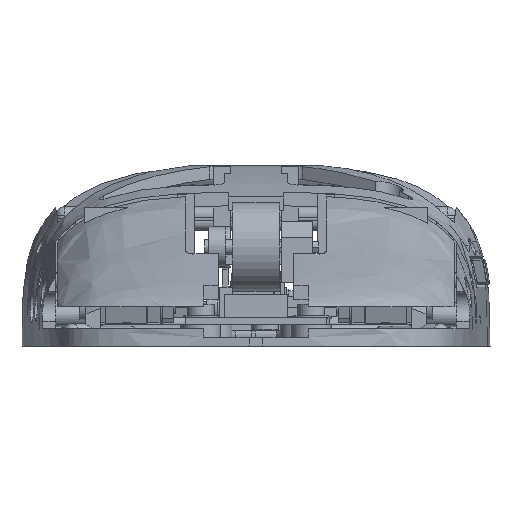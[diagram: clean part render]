
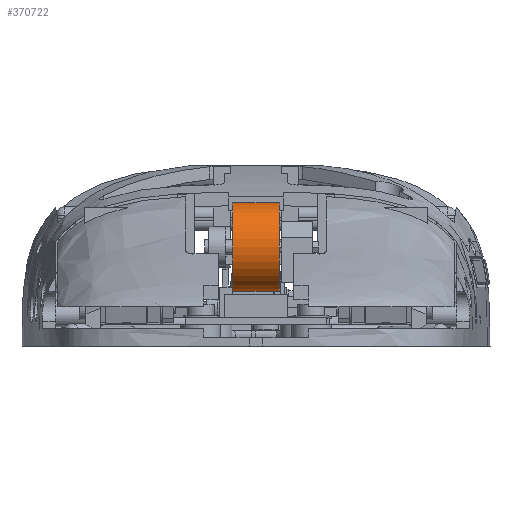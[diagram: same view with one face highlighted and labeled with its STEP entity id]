
A CAD part, front view. The second image highlights one B-rep face of the part: STEP entity #370722.
In plain terms, the highlighted cylindrical face has radius 6.25 mm (diameter 12.5 mm), a full revolution.
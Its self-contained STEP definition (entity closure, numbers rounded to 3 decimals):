
#370722 = ADVANCED_FACE('',(#370723),#370737,.T.);
#370723 = FACE_BOUND('',#370724,.T.);
#370724 = EDGE_LOOP('',(#370725,#370755,#370786,#370787));
#370725 = ORIENTED_EDGE('',*,*,#370726,.F.);
#370726 = EDGE_CURVE('',#370727,#370729,#370731,.T.);
#370727 = VERTEX_POINT('',#370728);
#370728 = CARTESIAN_POINT('',(3.25,28.,25.25));
#370729 = VERTEX_POINT('',#370730);
#370730 = CARTESIAN_POINT('',(-3.25,28.,25.25));
#370731 = SEAM_CURVE('',#370732,(#370736,#370748),.PCURVE_S1.);
#370732 = LINE('',#370733,#370734);
#370733 = CARTESIAN_POINT('',(3.25,28.,25.25));
#370734 = VECTOR('',#370735,1.);
#370735 = DIRECTION('',(-1.,-0.,-0.));
#370736 = PCURVE('',#370737,#370742);
#370737 = CYLINDRICAL_SURFACE('',#370738,6.25);
#370738 = AXIS2_PLACEMENT_3D('',#370739,#370740,#370741);
#370739 = CARTESIAN_POINT('',(3.25,28.,19.));
#370740 = DIRECTION('',(-1.,-0.,-0.));
#370741 = DIRECTION('',(-0.,0.,1.));
#370742 = DEFINITIONAL_REPRESENTATION('',(#370743),#370747);
#370743 = LINE('',#370744,#370745);
#370744 = CARTESIAN_POINT('',(0.,0.));
#370745 = VECTOR('',#370746,1.);
#370746 = DIRECTION('',(-0.,1.));
#370747 = ( GEOMETRIC_REPRESENTATION_CONTEXT(2) 
PARAMETRIC_REPRESENTATION_CONTEXT() REPRESENTATION_CONTEXT('2D SPACE',''
  ) );
#370748 = PCURVE('',#370737,#370749);
#370749 = DEFINITIONAL_REPRESENTATION('',(#370750),#370754);
#370750 = LINE('',#370751,#370752);
#370751 = CARTESIAN_POINT('',(6.283,0.));
#370752 = VECTOR('',#370753,1.);
#370753 = DIRECTION('',(-0.,1.));
#370754 = ( GEOMETRIC_REPRESENTATION_CONTEXT(2) 
PARAMETRIC_REPRESENTATION_CONTEXT() REPRESENTATION_CONTEXT('2D SPACE',''
  ) );
#370755 = ORIENTED_EDGE('',*,*,#370756,.F.);
#370756 = EDGE_CURVE('',#370727,#370727,#370757,.T.);
#370757 = SURFACE_CURVE('',#370758,(#370763,#370770),.PCURVE_S1.);
#370758 = CIRCLE('',#370759,6.25);
#370759 = AXIS2_PLACEMENT_3D('',#370760,#370761,#370762);
#370760 = CARTESIAN_POINT('',(3.25,28.,19.));
#370761 = DIRECTION('',(1.,0.,0.));
#370762 = DIRECTION('',(-0.,0.,1.));
#370763 = PCURVE('',#370737,#370764);
#370764 = DEFINITIONAL_REPRESENTATION('',(#370765),#370769);
#370765 = LINE('',#370766,#370767);
#370766 = CARTESIAN_POINT('',(6.283,0.));
#370767 = VECTOR('',#370768,1.);
#370768 = DIRECTION('',(-1.,0.));
#370769 = ( GEOMETRIC_REPRESENTATION_CONTEXT(2) 
PARAMETRIC_REPRESENTATION_CONTEXT() REPRESENTATION_CONTEXT('2D SPACE',''
  ) );
#370770 = PCURVE('',#370771,#370776);
#370771 = PLANE('',#370772);
#370772 = AXIS2_PLACEMENT_3D('',#370773,#370774,#370775);
#370773 = CARTESIAN_POINT('',(3.25,28.,19.));
#370774 = DIRECTION('',(-1.,-0.,-0.));
#370775 = DIRECTION('',(0.,0.,-1.));
#370776 = DEFINITIONAL_REPRESENTATION('',(#370777),#370785);
#370777 = ( BOUNDED_CURVE() B_SPLINE_CURVE(2,(#370778,#370779,#370780,
    #370781,#370782,#370783,#370784),.UNSPECIFIED.,.T.,.F.) 
B_SPLINE_CURVE_WITH_KNOTS((1,2,2,2,2,1),(-2.094,0.,
    2.094,4.189,6.283,8.378),
.UNSPECIFIED.) CURVE() GEOMETRIC_REPRESENTATION_ITEM() 
RATIONAL_B_SPLINE_CURVE((1.,0.5,1.,0.5,1.,0.5,1.)) REPRESENTATION_ITEM(
  '') );
#370778 = CARTESIAN_POINT('',(-6.25,0.));
#370779 = CARTESIAN_POINT('',(-6.25,10.825));
#370780 = CARTESIAN_POINT('',(3.125,5.413));
#370781 = CARTESIAN_POINT('',(12.5,0.));
#370782 = CARTESIAN_POINT('',(3.125,-5.413));
#370783 = CARTESIAN_POINT('',(-6.25,-10.825));
#370784 = CARTESIAN_POINT('',(-6.25,0.));
#370785 = ( GEOMETRIC_REPRESENTATION_CONTEXT(2) 
PARAMETRIC_REPRESENTATION_CONTEXT() REPRESENTATION_CONTEXT('2D SPACE',''
  ) );
#370786 = ORIENTED_EDGE('',*,*,#370726,.T.);
#370787 = ORIENTED_EDGE('',*,*,#370788,.T.);
#370788 = EDGE_CURVE('',#370729,#370729,#370789,.T.);
#370789 = SURFACE_CURVE('',#370790,(#370795,#370802),.PCURVE_S1.);
#370790 = CIRCLE('',#370791,6.25);
#370791 = AXIS2_PLACEMENT_3D('',#370792,#370793,#370794);
#370792 = CARTESIAN_POINT('',(-3.25,28.,19.));
#370793 = DIRECTION('',(1.,0.,0.));
#370794 = DIRECTION('',(-0.,0.,1.));
#370795 = PCURVE('',#370737,#370796);
#370796 = DEFINITIONAL_REPRESENTATION('',(#370797),#370801);
#370797 = LINE('',#370798,#370799);
#370798 = CARTESIAN_POINT('',(6.283,6.5));
#370799 = VECTOR('',#370800,1.);
#370800 = DIRECTION('',(-1.,0.));
#370801 = ( GEOMETRIC_REPRESENTATION_CONTEXT(2) 
PARAMETRIC_REPRESENTATION_CONTEXT() REPRESENTATION_CONTEXT('2D SPACE',''
  ) );
#370802 = PCURVE('',#370803,#370808);
#370803 = PLANE('',#370804);
#370804 = AXIS2_PLACEMENT_3D('',#370805,#370806,#370807);
#370805 = CARTESIAN_POINT('',(-3.25,28.,19.));
#370806 = DIRECTION('',(-1.,-0.,-0.));
#370807 = DIRECTION('',(0.,0.,-1.));
#370808 = DEFINITIONAL_REPRESENTATION('',(#370809),#370817);
#370809 = ( BOUNDED_CURVE() B_SPLINE_CURVE(2,(#370810,#370811,#370812,
    #370813,#370814,#370815,#370816),.UNSPECIFIED.,.T.,.F.) 
B_SPLINE_CURVE_WITH_KNOTS((1,2,2,2,2,1),(-2.094,0.,
    2.094,4.189,6.283,8.378),
.UNSPECIFIED.) CURVE() GEOMETRIC_REPRESENTATION_ITEM() 
RATIONAL_B_SPLINE_CURVE((1.,0.5,1.,0.5,1.,0.5,1.)) REPRESENTATION_ITEM(
  '') );
#370810 = CARTESIAN_POINT('',(-6.25,0.));
#370811 = CARTESIAN_POINT('',(-6.25,10.825));
#370812 = CARTESIAN_POINT('',(3.125,5.413));
#370813 = CARTESIAN_POINT('',(12.5,0.));
#370814 = CARTESIAN_POINT('',(3.125,-5.413));
#370815 = CARTESIAN_POINT('',(-6.25,-10.825));
#370816 = CARTESIAN_POINT('',(-6.25,0.));
#370817 = ( GEOMETRIC_REPRESENTATION_CONTEXT(2) 
PARAMETRIC_REPRESENTATION_CONTEXT() REPRESENTATION_CONTEXT('2D SPACE',''
  ) );
